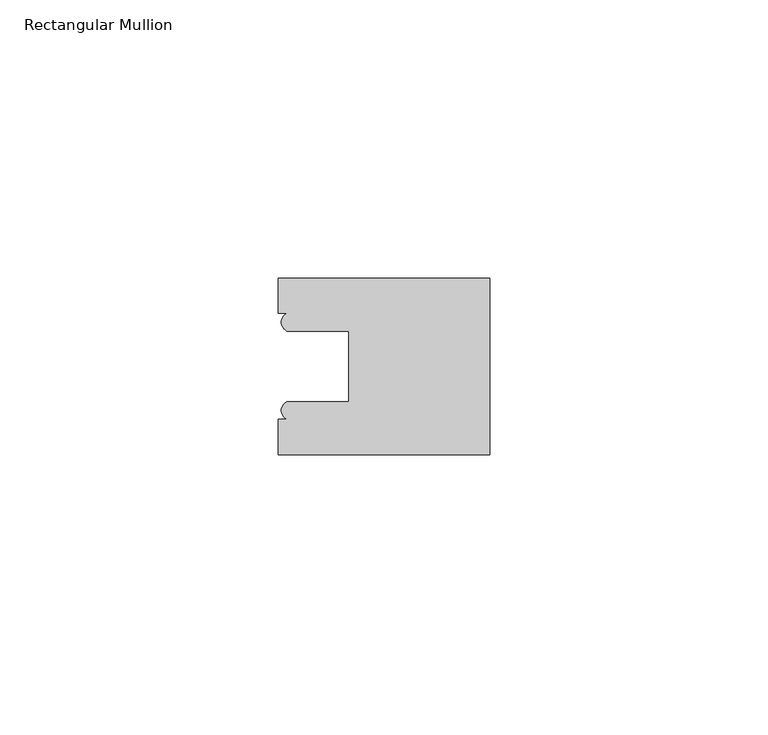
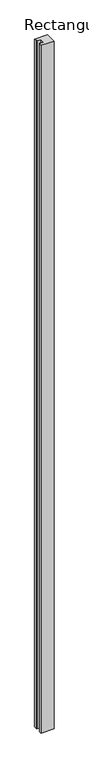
"""IFC4 building model written with IfcOpenShell, lengths in millimetres: member geometry, Rectangular Mullion : Melius SG Wall Start Left."""

from ifc_helpers import new_model, si_unit, point, frame, frame_2d, origin, place, context, project, spatial, polyline, circle_curve, trimmed, segment, composite_curve, outline, extrude, source, transform, mapped, element, save


def rectangular_mullion_b852b7b1(model_context):
    return source(origin(), model_context, "Body", "SweptSolid", [
        extrude(outline(composite_curve([segment(polyline([(-25.4, 6.35), (-36.5125, 6.35)]), True, "CONTINUOUS"), segment(trimmed(circle_curve(frame_2d((-35.722094, 7.9375)), 1.773386), [point((-36.5125, 6.35))], [point((-36.5125, 9.525))], False, "CARTESIAN"), True, "CONTINUOUS"), segment(polyline([(-36.5125, 9.525), (-38.1, 9.525), (-38.1, 15.875), (0.0, 15.875), (0.0, -15.875), (-38.1, -15.875), (-38.1, -9.525), (-36.5125, -9.525)]), True, "CONTINUOUS"), segment(trimmed(circle_curve(frame_2d((-35.722094, -7.9375)), 1.773386), [point((-36.5125, -9.525))], [point((-36.5125, -6.35))], False, "CARTESIAN"), True, "CONTINUOUS"), segment(polyline([(-36.5125, -6.35), (-25.4, -6.35), (-25.4, 6.35)]), True, "CONTINUOUS")], self_intersect=False)), frame((0.0, 0.0, -2133.6), z_axis=(0.0, 0.0, 1.0), x_axis=(1.0, 0.0, 0.0)), (0.0, 0.0, 1.0), 2133.6),
    ])


if __name__ == "__main__":
    model = new_model("IFC4")
    model_context = context("Model", 3, world=origin())
    ifc_project = project(units=[si_unit("LENGTHUNIT", "METRE", prefix="MILLI")], contexts=[model_context])
    site = spatial("IfcSite", under=ifc_project)
    building = spatial("IfcBuilding", under=site)
    placement = place(None, origin())
    rectangular_mullion_shape = rectangular_mullion_b852b7b1(model_context)
    element("IfcMember", 1, ObjectType="Rectangular Mullion : Melius SG Wall Start Left", at=placement, inside=building, context=model_context, shape_type="MappedRepresentation", body=[
        mapped(rectangular_mullion_shape, transform((0.0, 0.0, 0.0), x_axis=(1.0, 0.0, 0.0), y_axis=(0.0, 1.0, 0.0), z_axis=(0.0, 0.0, 1.0))),
    ])
    save(model, "model.ifc")
